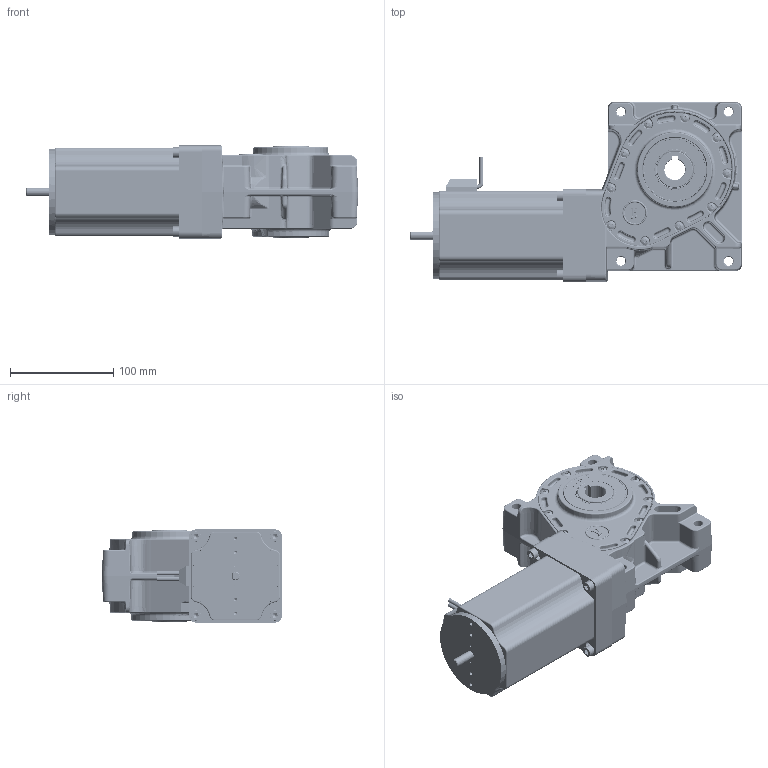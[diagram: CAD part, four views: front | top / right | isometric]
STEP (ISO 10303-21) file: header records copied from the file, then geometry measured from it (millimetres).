
FILE_DESCRIPTION (( 'STEP AP214' ), '1' );
FILE_NAME ('PBL86-80-GB65.STEP', '2024-09-16T10:36:32', ( '' ), ( '' ), 'SwSTEP 2.0', 'SolidWorks 2023', '' );
FILE_SCHEMA (( 'AUTOMOTIVE_DESIGN' ));
Length unit declared in the file: millimetre
Products named in the file (1): PBL86-80-GB65
Bounding box: 320.95 x 174.1 x 90 mm (x, y, z)
Surface area: 386609.2 mm2 (no closed solid volume)
Topology: 0 solids, 66 shells, 4836 faces, 11890 edges, 7133 vertices
Faces by surface type: bspline 1197, cylinder 1162, plane 1056, torus 700, cone 565, sphere 156
Entity records: 252538 total; most frequent: CARTESIAN_POINT 93495, ORIENTED_EDGE 23202, DIRECTION 20762, EDGE_CURVE 11601, AXIS2_PLACEMENT_3D 8501, VERTEX_POINT 7113, EDGE_LOOP 5144, UNCERTAINTY_MEASURE_WITH_UNIT 4875
